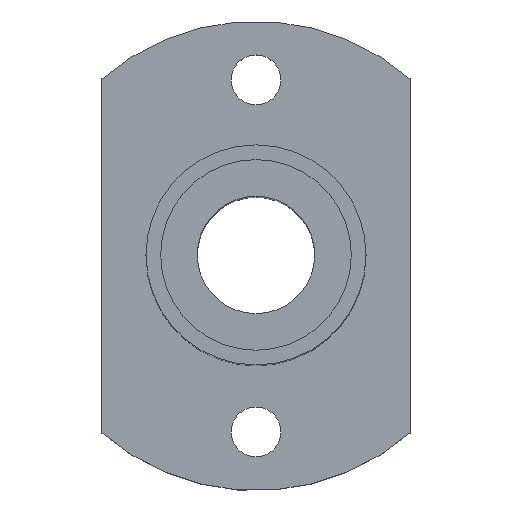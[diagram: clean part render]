
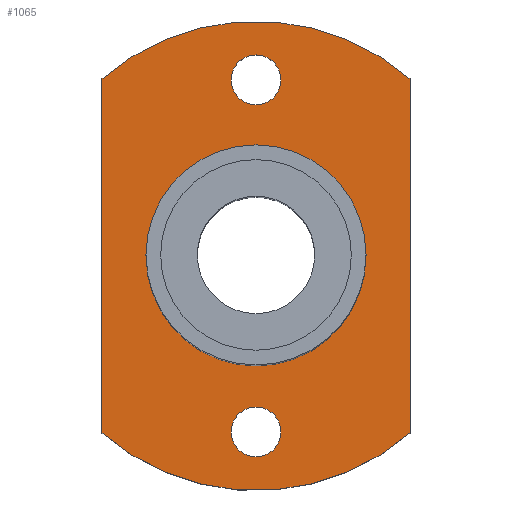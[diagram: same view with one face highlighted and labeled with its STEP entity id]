
A CAD part, top view. The second image highlights one B-rep face of the part: STEP entity #1065.
In plain terms, the highlighted planar face has unit normal (0, 0, 1).
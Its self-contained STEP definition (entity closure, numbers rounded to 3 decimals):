
#91=CARTESIAN_POINT('',(-2.,-6.843,5.0));
#92=VERTEX_POINT('',#91);
#101=CARTESIAN_POINT('',(13.,-6.843,5.0));
#102=VERTEX_POINT('',#101);
#103=CARTESIAN_POINT('',(5.5,-6.843,5.0));
#104=DIRECTION('',(0.0,0.0,-1.0));
#105=DIRECTION('',(-1.0,0.0,0.0));
#106=AXIS2_PLACEMENT_3D('',#103,#104,#105);
#107=CIRCLE('',#106,7.5);
#108=EDGE_CURVE('',#102,#92,#107,.T.);
#280=CARTESIAN_POINT('',(3.8,-18.843,5.0));
#281=VERTEX_POINT('',#280);
#290=CARTESIAN_POINT('',(7.2,-18.843,5.0));
#291=VERTEX_POINT('',#290);
#292=CARTESIAN_POINT('',(5.5,-18.843,5.0));
#293=DIRECTION('',(0.0,0.0,-1.0));
#294=DIRECTION('',(-1.0,0.0,0.0));
#295=AXIS2_PLACEMENT_3D('',#292,#293,#294);
#296=CIRCLE('',#295,1.7);
#297=EDGE_CURVE('',#291,#281,#296,.T.);
#406=CARTESIAN_POINT('',(3.8,5.157,5.0));
#407=VERTEX_POINT('',#406);
#416=CARTESIAN_POINT('',(7.2,5.157,5.0));
#417=VERTEX_POINT('',#416);
#418=CARTESIAN_POINT('',(5.5,5.157,5.0));
#419=DIRECTION('',(0.0,0.0,-1.0));
#420=DIRECTION('',(-1.0,0.0,0.0));
#421=AXIS2_PLACEMENT_3D('',#418,#419,#420);
#422=CIRCLE('',#421,1.7);
#423=EDGE_CURVE('',#417,#407,#422,.T.);
#600=CARTESIAN_POINT('',(5.5,5.157,5.0));
#601=DIRECTION('',(0.0,0.0,-1.0));
#602=DIRECTION('',(-1.0,0.0,0.0));
#603=AXIS2_PLACEMENT_3D('',#600,#601,#602);
#604=CIRCLE('',#603,1.7);
#605=EDGE_CURVE('',#407,#417,#604,.T.);
#704=CARTESIAN_POINT('',(5.5,-18.843,5.0));
#705=DIRECTION('',(0.0,0.0,-1.0));
#706=DIRECTION('',(-1.0,0.0,0.0));
#707=AXIS2_PLACEMENT_3D('',#704,#705,#706);
#708=CIRCLE('',#707,1.7);
#709=EDGE_CURVE('',#281,#291,#708,.T.);
#908=CARTESIAN_POINT('',(5.5,-6.843,5.0));
#909=DIRECTION('',(0.0,0.0,-1.0));
#910=DIRECTION('',(-1.0,0.0,0.0));
#911=AXIS2_PLACEMENT_3D('',#908,#909,#910);
#912=CIRCLE('',#911,7.5);
#913=EDGE_CURVE('',#92,#102,#912,.T.);
#949=CARTESIAN_POINT('',(16.,-18.916,5.0));
#950=VERTEX_POINT('',#949);
#951=CARTESIAN_POINT('',(-5.,-18.916,5.0));
#952=VERTEX_POINT('',#951);
#953=CARTESIAN_POINT('',(5.5,-6.843,5.0));
#954=DIRECTION('',(0.0,0.0,-1.0));
#955=DIRECTION('',(-0.656,-0.755,0.0));
#956=AXIS2_PLACEMENT_3D('',#953,#954,#955);
#957=CIRCLE('',#956,16.0);
#958=EDGE_CURVE('',#950,#952,#957,.T.);
#981=CARTESIAN_POINT('',(-5.0,5.229,5.0));
#982=VERTEX_POINT('',#981);
#983=CARTESIAN_POINT('',(-5.,-18.916,5.0));
#984=DIRECTION('',(0.0,1.0,0.0));
#985=VECTOR('',#984,24.145);
#986=LINE('',#983,#985);
#987=EDGE_CURVE('',#952,#982,#986,.T.);
#1005=CARTESIAN_POINT('',(16.,5.229,5.0));
#1006=VERTEX_POINT('',#1005);
#1007=CARTESIAN_POINT('',(5.5,-6.843,5.0));
#1008=DIRECTION('',(0.0,0.0,-1.0));
#1009=DIRECTION('',(0.656,0.755,0.0));
#1010=AXIS2_PLACEMENT_3D('',#1007,#1008,#1009);
#1011=CIRCLE('',#1010,16.0);
#1012=EDGE_CURVE('',#982,#1006,#1011,.T.);
#1030=CARTESIAN_POINT('',(16.,5.229,5.0));
#1031=DIRECTION('',(0.0,-1.0,0.0));
#1032=VECTOR('',#1031,24.145);
#1033=LINE('',#1030,#1032);
#1034=EDGE_CURVE('',#1006,#950,#1033,.T.);
#1042=CARTESIAN_POINT('',(5.5,-6.843,5.0));
#1043=DIRECTION('',(0.0,0.0,1.0));
#1044=DIRECTION('',(1.0,0.0,0.0));
#1045=AXIS2_PLACEMENT_3D('',#1042,#1043,#1044);
#1046=PLANE('',#1045);
#1047=ORIENTED_EDGE('',*,*,#958,.F.);
#1048=ORIENTED_EDGE('',*,*,#1034,.F.);
#1049=ORIENTED_EDGE('',*,*,#1012,.F.);
#1050=ORIENTED_EDGE('',*,*,#987,.F.);
#1051=EDGE_LOOP('',(#1047,#1048,#1049,#1050));
#1052=FACE_OUTER_BOUND('',#1051,.T.);
#1053=ORIENTED_EDGE('',*,*,#423,.T.);
#1054=ORIENTED_EDGE('',*,*,#605,.T.);
#1055=EDGE_LOOP('',(#1053,#1054));
#1056=FACE_BOUND('',#1055,.T.);
#1057=ORIENTED_EDGE('',*,*,#297,.T.);
#1058=ORIENTED_EDGE('',*,*,#709,.T.);
#1059=EDGE_LOOP('',(#1057,#1058));
#1060=FACE_BOUND('',#1059,.T.);
#1061=ORIENTED_EDGE('',*,*,#108,.T.);
#1062=ORIENTED_EDGE('',*,*,#913,.T.);
#1063=EDGE_LOOP('',(#1061,#1062));
#1064=FACE_BOUND('',#1063,.T.);
#1065=ADVANCED_FACE('',(#1052,#1056,#1060,#1064),#1046,.T.);
